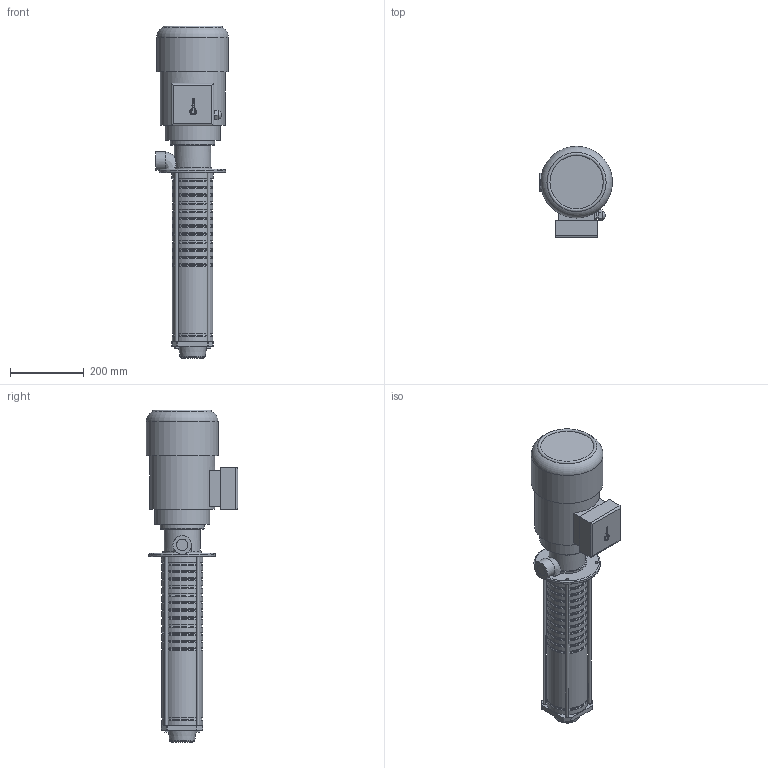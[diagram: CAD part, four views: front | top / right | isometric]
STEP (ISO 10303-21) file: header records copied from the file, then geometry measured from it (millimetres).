
FILE_DESCRIPTION(/* description */ ('Unknown'),/* implementation_level */ '2;1');
FILE_NAME(/* name */ 'hdb20-12',/* time_stamp */ '2023-06-23T17:13:29+03:00',/* author */ ('Unknown'),/* organization */ ('Unknown'),/* preprocessor_version */ 'ST-DEVELOPER v16.7',/* originating_system */ 'DEX',/* authorisation */ $);
FILE_SCHEMA (('AUTOMOTIVE_DESIGN {1 0 10303 214 3 1 1}'));
Length unit declared in the file: millimetre
Products named in the file (1): hdb20-12
Bounding box: 197 x 247 x 898 mm (x, y, z)
Volume: 14178059.8 mm3; surface area: 576055.8 mm2
Topology: 1 solids, 1 shells, 292 faces, 687 edges, 439 vertices
Faces by surface type: plane 109, cylinder 66, bspline 66, torus 34, cone 17
Full cylindrical faces by diameter (mm): 7.5 x4, 8 x4, 17 x1, 21.5 x1, 31 x1, 50 x1, 98.181 x1, 106.9 x13, 110 x13, 112 x1, 120 x1, 148.64 x1, 175.993 x1, 180 x1, 194 x1
Entity records: 10416 total; most frequent: CARTESIAN_POINT 4434, ORIENTED_EDGE 1158, DIRECTION 1063, EDGE_CURVE 579, EDGE_LOOP 446, FACE_BOUND 446, VERTEX_POINT 427, AXIS2_PLACEMENT_3D 397
